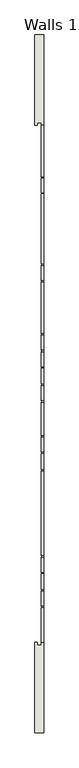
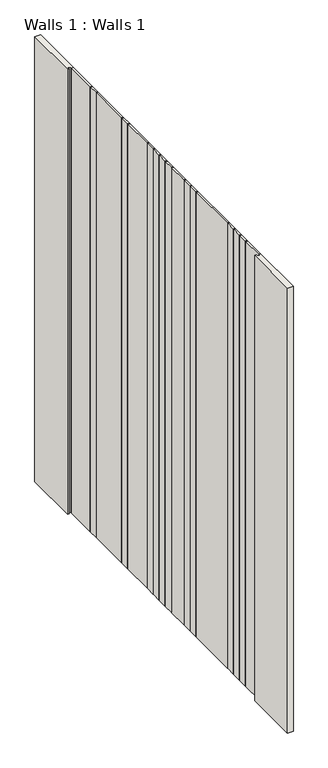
"""IFC4 building model written with IfcOpenShell, lengths in millimetres: wall geometry, Walls 1 : Walls 1."""

from ifc_helpers import new_model, si_unit, frame, origin, place, context, project, spatial, polyline, outline, extrude, source, transform, mapped, element, save


def walls_1_walls_1_f71c6d6e(model_context):
    return source(origin(), model_context, "Body", "SweptSolid", [
        extrude(outline(polyline([(-2077.2426281, -1004.8956147), (-2067.2426281, -1004.8956147), (-2067.2426281, -1139.8956147), (-2077.2426281, -1139.8956147), (-2077.2426281, -1004.8956147)])), frame((0.0, 0.0, 350.0), z_axis=(0.0, 0.0, 1.0), x_axis=(1.0, 0.0, 0.0)), (0.0, 0.0, 1.0), 2900.0),
        extrude(outline(polyline([(-2077.2426281, -469.8956147), (-2077.2426281, -409.8956147), (-2067.2426281, -409.8956147), (-2067.2426281, -469.8956147), (-2077.2426281, -469.8956147)])), frame((0.0, 0.0, 350.0), z_axis=(0.0, 0.0, 1.0), x_axis=(1.0, 0.0, 0.0)), (0.0, 0.0, 1.0), 2900.0),
        extrude(outline(polyline([(-2077.2426281, -139.8956147), (-2077.2426281, -79.8956147), (-2067.2426281, -79.8956147), (-2067.2426281, -139.8956147), (-2077.2426281, -139.8956147)])), frame((0.0, 0.0, 350.0), z_axis=(0.0, 0.0, 1.0), x_axis=(1.0, 0.0, 0.0)), (0.0, 0.0, 1.0), 2900.0),
        extrude(outline(polyline([(-2077.2426281, 325.1043853), (-2077.2426281, 595.1043853), (-2067.2426281, 595.1043853), (-2067.2426281, 325.1043853), (-2077.2426281, 325.1043853)])), frame((0.0, 0.0, 350.0), z_axis=(0.0, 0.0, 1.0), x_axis=(1.0, 0.0, 0.0)), (0.0, 0.0, 1.0), 2900.0),
        extrude(outline(polyline([(-2077.2426281, 655.1043853), (-2067.2426281, 655.1043853), (-2067.2426281, 600.1043853), (-2077.2426281, 600.1043853), (-2077.2426281, 655.1043853)])), frame((0.0, 0.0, 350.0), z_axis=(0.0, 0.0, 1.0), x_axis=(1.0, 0.0, 0.0)), (0.0, 0.0, 1.0), 2900.0),
        extrude(outline(polyline([(-2077.2426281, -934.8956147), (-2077.2426281, -874.8956147), (-2067.2426281, -874.8956147), (-2067.2426281, -934.8956147), (-2077.2426281, -934.8956147)])), frame((0.0, 0.0, 350.0), z_axis=(0.0, 0.0, 1.0), x_axis=(1.0, 0.0, 0.0)), (0.0, 0.0, 1.0), 2900.0),
        extrude(outline(polyline([(-2067.2426281, 660.1043853), (-2067.2426281, 655.1043853), (-2075.2426281, 655.1043853), (-2075.2426281, 660.1043853), (-2067.2426281, 660.1043853)])), frame((0.0, 0.0, 350.0), z_axis=(0.0, 0.0, 1.0), x_axis=(1.0, 0.0, 0.0)), (0.0, 0.0, 1.0), 2900.0),
        extrude(outline(polyline([(-2067.2426281, 260.1043853), (-2067.2426281, 255.1043853), (-2075.2426281, 255.1043853), (-2075.2426281, 260.1043853), (-2067.2426281, 260.1043853)])), frame((0.0, 0.0, 350.0), z_axis=(0.0, 0.0, 1.0), x_axis=(1.0, 0.0, 0.0)), (0.0, 0.0, 1.0), 2900.0),
        extrude(outline(polyline([(-2067.2426281, 55.1043853), (-2067.2426281, 50.1043853), (-2075.2426281, 50.1043853), (-2075.2426281, 55.1043853), (-2067.2426281, 55.1043853)])), frame((0.0, 0.0, 350.0), z_axis=(0.0, 0.0, 1.0), x_axis=(1.0, 0.0, 0.0)), (0.0, 0.0, 1.0), 2900.0),
        extrude(outline(polyline([(-2067.2426281, -9.8956147), (-2067.2426281, -14.8956147), (-2075.2426281, -14.8956147), (-2075.2426281, -9.8956147), (-2067.2426281, -9.8956147)])), frame((0.0, 0.0, 350.0), z_axis=(0.0, 0.0, 1.0), x_axis=(1.0, 0.0, 0.0)), (0.0, 0.0, 1.0), 2900.0),
        extrude(outline(polyline([(-2067.2426281, -74.8956147), (-2067.2426281, -79.8956147), (-2075.2426281, -79.8956147), (-2075.2426281, -74.8956147), (-2067.2426281, -74.8956147)])), frame((0.0, 0.0, 350.0), z_axis=(0.0, 0.0, 1.0), x_axis=(1.0, 0.0, 0.0)), (0.0, 0.0, 1.0), 2900.0),
        extrude(outline(polyline([(-2067.2426281, -204.8956147), (-2067.2426281, -209.8956147), (-2075.2426281, -209.8956147), (-2075.2426281, -204.8956147), (-2067.2426281, -204.8956147)])), frame((0.0, 0.0, 350.0), z_axis=(0.0, 0.0, 1.0), x_axis=(1.0, 0.0, 0.0)), (0.0, 0.0, 1.0), 2900.0),
        extrude(outline(polyline([(-2067.2426281, -339.8956147), (-2067.2426281, -344.8956147), (-2075.2426281, -344.8956147), (-2075.2426281, -339.8956147), (-2067.2426281, -339.8956147)])), frame((0.0, 0.0, 350.0), z_axis=(0.0, 0.0, 1.0), x_axis=(1.0, 0.0, 0.0)), (0.0, 0.0, 1.0), 2900.0),
        extrude(outline(polyline([(-2067.2426281, -404.8956147), (-2067.2426281, -409.8956147), (-2075.2426281, -409.8956147), (-2075.2426281, -404.8956147), (-2067.2426281, -404.8956147)])), frame((0.0, 0.0, 350.0), z_axis=(0.0, 0.0, 1.0), x_axis=(1.0, 0.0, 0.0)), (0.0, 0.0, 1.0), 2900.0),
        extrude(outline(polyline([(-2067.2426281, -804.8956147), (-2067.2426281, -809.8956147), (-2075.2426281, -809.8956147), (-2075.2426281, -804.8956147), (-2067.2426281, -804.8956147)])), frame((0.0, 0.0, 350.0), z_axis=(0.0, 0.0, 1.0), x_axis=(1.0, 0.0, 0.0)), (0.0, 0.0, 1.0), 2900.0),
        extrude(outline(polyline([(-2067.2426281, -869.8956147), (-2067.2426281, -874.8956147), (-2075.2426281, -874.8956147), (-2075.2426281, -869.8956147), (-2067.2426281, -869.8956147)])), frame((0.0, 0.0, 350.0), z_axis=(0.0, 0.0, 1.0), x_axis=(1.0, 0.0, 0.0)), (0.0, 0.0, 1.0), 2900.0),
        extrude(outline(polyline([(-2067.2426281, -999.8956147), (-2067.2426281, -1004.8956147), (-2075.2426281, -1004.8956147), (-2075.2426281, -999.8956147), (-2067.2426281, -999.8956147)])), frame((0.0, 0.0, 350.0), z_axis=(0.0, 0.0, 1.0), x_axis=(1.0, 0.0, 0.0)), (0.0, 0.0, 1.0), 2900.0),
        extrude(outline(polyline([(-2067.2426281, -469.8956147), (-2067.2426281, -474.8956147), (-2075.2426281, -474.8956147), (-2075.2426281, -469.8956147), (-2067.2426281, -469.8956147)])), frame((0.0, 0.0, 350.0), z_axis=(0.0, 0.0, 1.0), x_axis=(1.0, 0.0, 0.0)), (0.0, 0.0, 1.0), 2900.0),
        extrude(outline(polyline([(-2067.2426281, -139.8956147), (-2067.2426281, -144.8956147), (-2075.2426281, -144.8956147), (-2075.2426281, -139.8956147), (-2067.2426281, -139.8956147)])), frame((0.0, 0.0, 350.0), z_axis=(0.0, 0.0, 1.0), x_axis=(1.0, 0.0, 0.0)), (0.0, 0.0, 1.0), 2900.0),
        extrude(outline(polyline([(-2067.2426281, 325.1043853), (-2067.2426281, 320.1043853), (-2075.2426281, 320.1043853), (-2075.2426281, 325.1043853), (-2067.2426281, 325.1043853)])), frame((0.0, 0.0, 350.0), z_axis=(0.0, 0.0, 1.0), x_axis=(1.0, 0.0, 0.0)), (0.0, 0.0, 1.0), 2900.0),
        extrude(outline(polyline([(-2067.2426281, -934.8956147), (-2067.2426281, -939.8956147), (-2075.2426281, -939.8956147), (-2075.2426281, -934.8956147), (-2067.2426281, -934.8956147)])), frame((0.0, 0.0, 350.0), z_axis=(0.0, 0.0, 1.0), x_axis=(1.0, 0.0, 0.0)), (0.0, 0.0, 1.0), 2900.0),
        extrude(outline(polyline([(-2067.2426281, 600.1043853), (-2067.2426281, 595.1043853), (-2075.2426281, 595.1043853), (-2075.2426281, 600.1043853), (-2067.2426281, 600.1043853)])), frame((0.0, 0.0, 350.0), z_axis=(0.0, 0.0, 1.0), x_axis=(1.0, 0.0, 0.0)), (0.0, 0.0, 1.0), 2900.0),
        extrude(outline(polyline([(-2067.2426281, 860.1043853), (-2067.2426281, 660.1043853), (-2077.2426281, 660.1043853), (-2077.2426281, 860.1043853), (-2067.2426281, 860.1043853)])), frame((0.0, 0.0, 350.0), z_axis=(0.0, 0.0, 1.0), x_axis=(1.0, 0.0, 0.0)), (0.0, 0.0, 1.0), 2900.0),
        extrude(outline(polyline([(-2077.2426281, 320.1043853), (-2067.2426281, 320.1043853), (-2067.2426281, 260.1043853), (-2077.2426281, 260.1043853), (-2077.2426281, 320.1043853)])), frame((0.0, 0.0, 350.0), z_axis=(0.0, 0.0, 1.0), x_axis=(1.0, 0.0, 0.0)), (0.0, 0.0, 1.0), 2900.0),
        extrude(outline(polyline([(-2077.2426281, 255.1043853), (-2067.2426281, 255.1043853), (-2067.2426281, 55.1043853), (-2077.2426281, 55.1043853), (-2077.2426281, 255.1043853)])), frame((0.0, 0.0, 350.0), z_axis=(0.0, 0.0, 1.0), x_axis=(1.0, 0.0, 0.0)), (0.0, 0.0, 1.0), 2900.0),
        extrude(outline(polyline([(-2077.2426281, 50.1043853), (-2067.2426281, 50.1043853), (-2067.2426281, -9.8956147), (-2077.2426281, -9.8956147), (-2077.2426281, 50.1043853)])), frame((0.0, 0.0, 350.0), z_axis=(0.0, 0.0, 1.0), x_axis=(1.0, 0.0, 0.0)), (0.0, 0.0, 1.0), 2900.0),
        extrude(outline(polyline([(-2077.2426281, -14.8956147), (-2067.2426281, -14.8956147), (-2067.2426281, -74.8956147), (-2077.2426281, -74.8956147), (-2077.2426281, -14.8956147)])), frame((0.0, 0.0, 350.0), z_axis=(0.0, 0.0, 1.0), x_axis=(1.0, 0.0, 0.0)), (0.0, 0.0, 1.0), 2900.0),
        extrude(outline(polyline([(-2077.2426281, -144.8956147), (-2067.2426281, -144.8956147), (-2067.2426281, -204.8956147), (-2077.2426281, -204.8956147), (-2077.2426281, -144.8956147)])), frame((0.0, 0.0, 350.0), z_axis=(0.0, 0.0, 1.0), x_axis=(1.0, 0.0, 0.0)), (0.0, 0.0, 1.0), 2900.0),
        extrude(outline(polyline([(-2077.2426281, -209.8956147), (-2067.2426281, -209.8956147), (-2067.2426281, -339.8956147), (-2077.2426281, -339.8956147), (-2077.2426281, -209.8956147)])), frame((0.0, 0.0, 350.0), z_axis=(0.0, 0.0, 1.0), x_axis=(1.0, 0.0, 0.0)), (0.0, 0.0, 1.0), 2900.0),
        extrude(outline(polyline([(-2077.2426281, -344.8956147), (-2067.2426281, -344.8956147), (-2067.2426281, -404.8956147), (-2077.2426281, -404.8956147), (-2077.2426281, -344.8956147)])), frame((0.0, 0.0, 350.0), z_axis=(0.0, 0.0, 1.0), x_axis=(1.0, 0.0, 0.0)), (0.0, 0.0, 1.0), 2900.0),
        extrude(outline(polyline([(-2077.2426281, -474.8956147), (-2067.2426281, -474.8956147), (-2067.2426281, -804.8956147), (-2077.2426281, -804.8956147), (-2077.2426281, -474.8956147)])), frame((0.0, 0.0, 350.0), z_axis=(0.0, 0.0, 1.0), x_axis=(1.0, 0.0, 0.0)), (0.0, 0.0, 1.0), 2900.0),
        extrude(outline(polyline([(-2077.2426281, -809.8956147), (-2067.2426281, -809.8956147), (-2067.2426281, -869.8956147), (-2077.2426281, -869.8956147), (-2077.2426281, -809.8956147)])), frame((0.0, 0.0, 350.0), z_axis=(0.0, 0.0, 1.0), x_axis=(1.0, 0.0, 0.0)), (0.0, 0.0, 1.0), 2900.0),
        extrude(outline(polyline([(-2077.2426281, -939.8956147), (-2067.2426281, -939.8956147), (-2067.2426281, -999.8956147), (-2077.2426281, -999.8956147), (-2077.2426281, -939.8956147)])), frame((0.0, 0.0, 350.0), z_axis=(0.0, 0.0, 1.0), x_axis=(1.0, 0.0, 0.0)), (0.0, 0.0, 1.0), 2900.0),
        extrude(outline(polyline([(-2102.2426281, 1210.1043853), (-2067.2426281, 1210.1043853), (-2067.2426281, 860.1043853), (-2077.2426281, 860.1043853), (-2077.2426281, 870.1043853), (-2092.2426281, 870.1043853), (-2092.2426281, 860.1043853), (-2102.2426281, 860.1043853), (-2102.2426281, 1210.1043853)])), frame((0.0, 0.0, 350.0), z_axis=(0.0, 0.0, 1.0), x_axis=(1.0, 0.0, 0.0)), (0.0, 0.0, 1.0), 2900.0),
        extrude(outline(polyline([(-2102.2426281, -1489.8956147), (-2102.2426281, -1139.8956147), (-2092.2426281, -1139.8956147), (-2092.2426281, -1149.8956147), (-2077.2426281, -1149.8956147), (-2077.2426281, -1139.8956147), (-2067.2426281, -1139.8956147), (-2067.2426281, -1489.8956147), (-2102.2426281, -1489.8956147)])), frame((0.0, 0.0, 350.0), z_axis=(0.0, 0.0, 1.0), x_axis=(1.0, 0.0, 0.0)), (0.0, 0.0, 1.0), 2900.0),
    ])


if __name__ == "__main__":
    model = new_model("IFC4")
    model_context = context("Model", 3, world=origin())
    ifc_project = project(units=[si_unit("LENGTHUNIT", "METRE", prefix="MILLI")], contexts=[model_context])
    site = spatial("IfcSite", under=ifc_project)
    building = spatial("IfcBuilding", under=site)
    placement = place(None, origin())
    walls_1_walls_1_shape = walls_1_walls_1_f71c6d6e(model_context)
    element("IfcWall", 1, ObjectType="Walls 1 : Walls 1", at=placement, inside=building, context=model_context, shape_type="MappedRepresentation", body=[
        mapped(walls_1_walls_1_shape, transform((0.0, 0.0, 0.0), x_axis=(1.0, 0.0, 0.0), y_axis=(0.0, 1.0, 0.0), z_axis=(0.0, 0.0, 1.0))),
    ])
    save(model, "model.ifc")
